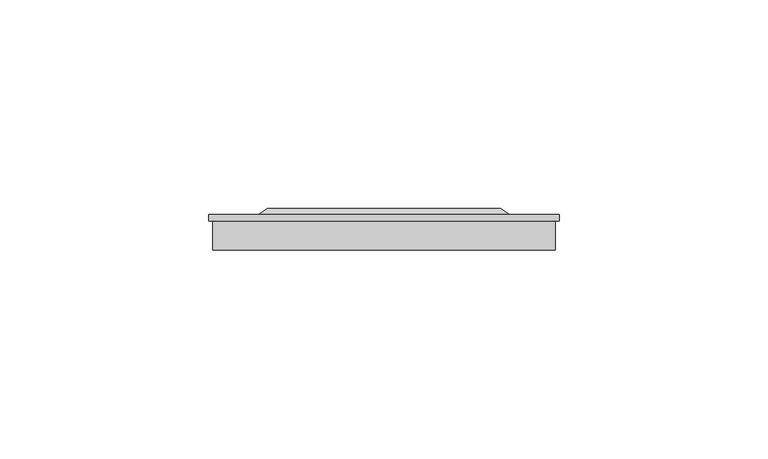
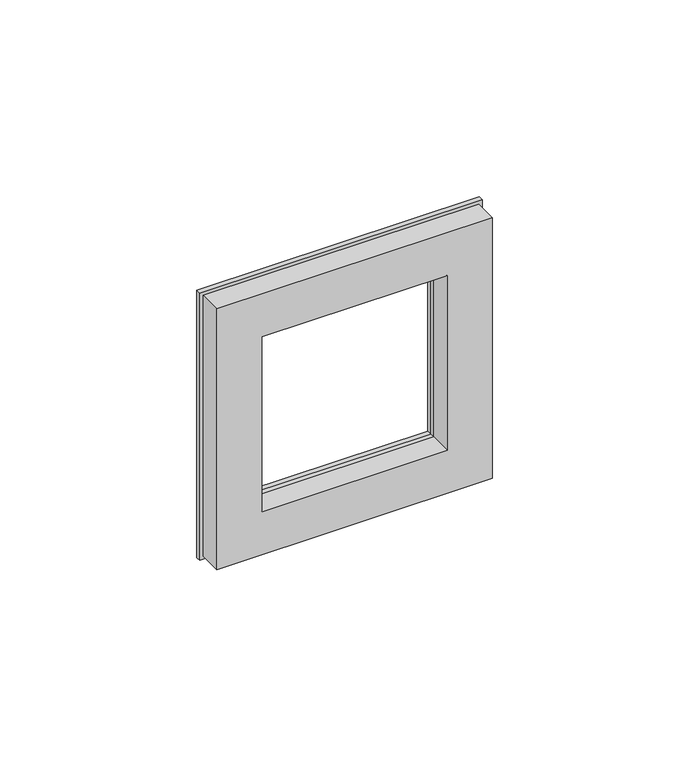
"""IFC4 building model written with IfcOpenShell, lengths in millimetres: proxy geometry, IEK_Brite_Рамка : x1_РУ-1-БрА алюм.."""

from ifc_helpers import new_model, si_unit, frame, origin, place, context, project, spatial, polyline, outline, extrude, faceted_brep, source, transform, mapped, element, save


def electrical_fixtures_103bd2fc(model_context):
    return source(origin(), model_context, "Body", "SolidModel", [
        extrude(outline(polyline([(41.0, -41.0), (-41.0, -41.0), (-41.0, 41.0), (41.0, 41.0), (41.0, -41.0)]), holes=[polyline([(-27.5, -27.5), (27.5, -27.5), (27.5, 27.5), (-27.5, 27.5), (-27.5, -27.5)])]), frame((0.0, 0.0, 0.0), z_axis=(0.0, 1.0, 0.0), x_axis=(0.0, 0.0, 1.0)), (0.0, 0.0, 1.0), 7.0),
        extrude(outline(polyline([(42.0, -42.0), (-42.0, -42.0), (-42.0, 42.0), (42.0, 42.0), (42.0, -42.0)]), holes=[polyline([(-27.5, -27.5), (27.5, -27.5), (27.5, 27.5), (-27.5, 27.5), (-27.5, -27.5)])]), frame((0.0, 7.0, 0.0), z_axis=(0.0, 1.0, 0.0), x_axis=(0.0, 0.0, 1.0)), (0.0, 0.0, 1.0), 1.5),
        faceted_brep([(-27.5, 10.0, 27.5), (-27.5, 8.5, 27.5), (-27.5, 8.5, -27.5), (-27.5, 10.0, -27.5), (27.5, 8.5, -27.5), (27.5, 10.0, -27.5), (27.5, 8.5, 27.5), (27.5, 10.0, 27.5), (-30.0, 8.5, 30.0), (-30.0, 8.5, -30.0), (30.0, 8.5, -30.0), (30.0, 8.5, 30.0), (-28.0, 10.0, 28.0), (28.0, 10.0, 28.0), (28.0, 10.0, -28.0), (-28.0, 10.0, -28.0)], [[[0, 1, 2, 3]], [[3, 2, 4, 5]], [[5, 4, 6, 7]], [[1, 0, 7, 6]], [[8, 9, 10, 11], [2, 1, 6, 4]], [[12, 13, 14, 15], [0, 3, 5, 7]], [[9, 8, 12, 15]], [[10, 9, 15, 14]], [[11, 10, 14, 13]], [[8, 11, 13, 12]]]),
    ])


if __name__ == "__main__":
    model = new_model("IFC4")
    model_context = context("Model", 3, world=origin())
    ifc_project = project(units=[si_unit("LENGTHUNIT", "METRE", prefix="MILLI")], contexts=[model_context])
    site = spatial("IfcSite", under=ifc_project)
    building = spatial("IfcBuilding", under=site)
    placement = place(None, origin())
    electrical_fixtures_shape = electrical_fixtures_103bd2fc(model_context)
    element("IfcBuildingElementProxy", 1, Name="IEK_Brite_Рамка : x1_РУ-1-БрА алюм.", ObjectType="IEK_Brite_Рамка : x1_РУ-1-БрА алюм.", at=placement, inside=building, context=model_context, shape_type="MappedRepresentation", body=[
        mapped(electrical_fixtures_shape, transform((0.0, 0.0, 0.0), x_axis=(1.0, 0.0, 0.0), y_axis=(0.0, 1.0, 0.0), z_axis=(0.0, 0.0, 1.0))),
    ])
    save(model, "model.ifc")
